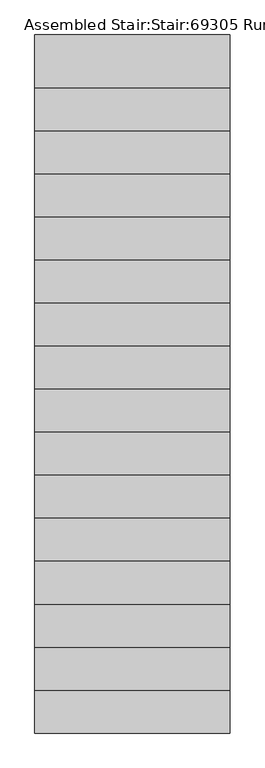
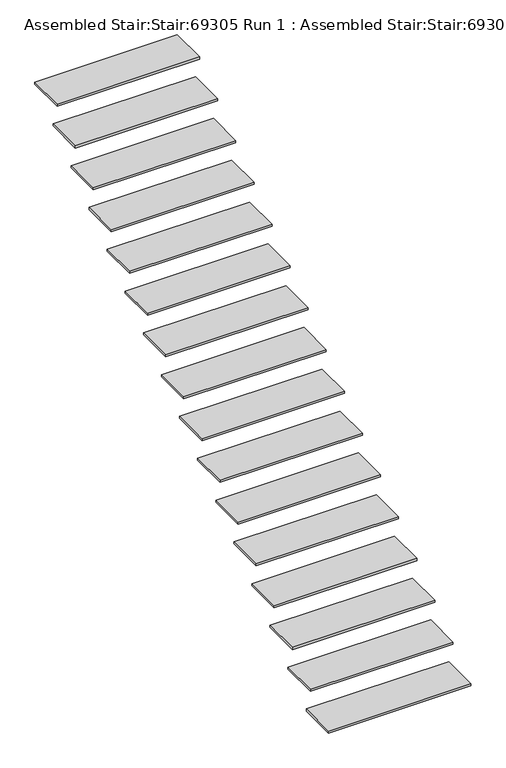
"""IFC4 building model written with IfcOpenShell, lengths in millimetres: stair geometry, Assembled Stair:Stair:69305 Run 1 : Assembled Stair:Stair:69305 Run 1."""

from ifc_helpers import new_model, si_unit, frame, origin, place, context, project, spatial, polyline, outline, extrude, source, transform, mapped, element, save


def assembled_stair_stair_69305_run_1_assembled_stair_stair_07b85a14(model_context):
    return source(origin(), model_context, "Body", "SweptSolid", [
        extrude(outline(polyline([(17274.8089026, -28024.6322236), (17274.8089026, -27754.6322236), (18274.8089026, -27754.6322236), (18274.8089026, -28024.6322236), (17274.8089026, -28024.6322236)])), frame((0.0, 0.0, 2808.5294118), z_axis=(0.0, 0.0, 1.0), x_axis=(1.0, 0.0, 0.0)), (0.0, 0.0, 1.0), 15.0),
        extrude(outline(polyline([(17274.8089026, -28244.6322236), (17274.8089026, -27974.6322236), (18274.8089026, -27974.6322236), (18274.8089026, -28244.6322236), (17274.8089026, -28244.6322236)])), frame((0.0, 0.0, 2632.0588235), z_axis=(0.0, 0.0, 1.0), x_axis=(1.0, 0.0, 0.0)), (0.0, 0.0, 1.0), 15.0),
        extrude(outline(polyline([(17274.8089026, -28464.6322236), (17274.8089026, -28194.6322236), (18274.8089026, -28194.6322236), (18274.8089026, -28464.6322236), (17274.8089026, -28464.6322236)])), frame((0.0, 0.0, 2455.5882353), z_axis=(0.0, 0.0, 1.0), x_axis=(1.0, 0.0, 0.0)), (0.0, 0.0, 1.0), 15.0),
        extrude(outline(polyline([(17274.8089026, -28684.6322236), (17274.8089026, -28414.6322236), (18274.8089026, -28414.6322236), (18274.8089026, -28684.6322236), (17274.8089026, -28684.6322236)])), frame((0.0, 0.0, 2279.1176471), z_axis=(0.0, 0.0, 1.0), x_axis=(1.0, 0.0, 0.0)), (0.0, 0.0, 1.0), 15.0),
        extrude(outline(polyline([(17274.8089026, -28904.6322236), (17274.8089026, -28634.6322236), (18274.8089026, -28634.6322236), (18274.8089026, -28904.6322236), (17274.8089026, -28904.6322236)])), frame((0.0, 0.0, 2102.6470588), z_axis=(0.0, 0.0, 1.0), x_axis=(1.0, 0.0, 0.0)), (0.0, 0.0, 1.0), 15.0),
        extrude(outline(polyline([(17274.8089026, -29124.6322236), (17274.8089026, -28854.6322236), (18274.8089026, -28854.6322236), (18274.8089026, -29124.6322236), (17274.8089026, -29124.6322236)])), frame((0.0, 0.0, 1926.1764706), z_axis=(0.0, 0.0, 1.0), x_axis=(1.0, 0.0, 0.0)), (0.0, 0.0, 1.0), 15.0),
        extrude(outline(polyline([(17274.8089026, -29344.6322236), (17274.8089026, -29074.6322236), (18274.8089026, -29074.6322236), (18274.8089026, -29344.6322236), (17274.8089026, -29344.6322236)])), frame((0.0, 0.0, 1749.7058824), z_axis=(0.0, 0.0, 1.0), x_axis=(1.0, 0.0, 0.0)), (0.0, 0.0, 1.0), 15.0),
        extrude(outline(polyline([(17274.8089026, -29564.6322236), (17274.8089026, -29294.6322236), (18274.8089026, -29294.6322236), (18274.8089026, -29564.6322236), (17274.8089026, -29564.6322236)])), frame((0.0, 0.0, 1573.2352941), z_axis=(0.0, 0.0, 1.0), x_axis=(1.0, 0.0, 0.0)), (0.0, 0.0, 1.0), 15.0),
        extrude(outline(polyline([(17274.8089026, -29784.6322236), (17274.8089026, -29514.6322236), (18274.8089026, -29514.6322236), (18274.8089026, -29784.6322236), (17274.8089026, -29784.6322236)])), frame((0.0, 0.0, 1396.7647059), z_axis=(0.0, 0.0, 1.0), x_axis=(1.0, 0.0, 0.0)), (0.0, 0.0, 1.0), 15.0),
        extrude(outline(polyline([(17274.8089026, -30004.6322236), (17274.8089026, -29734.6322236), (18274.8089026, -29734.6322236), (18274.8089026, -30004.6322236), (17274.8089026, -30004.6322236)])), frame((0.0, 0.0, 1220.2941176), z_axis=(0.0, 0.0, 1.0), x_axis=(1.0, 0.0, 0.0)), (0.0, 0.0, 1.0), 15.0),
        extrude(outline(polyline([(17274.8089026, -30224.6322236), (17274.8089026, -29954.6322236), (18274.8089026, -29954.6322236), (18274.8089026, -30224.6322236), (17274.8089026, -30224.6322236)])), frame((0.0, 0.0, 1043.8235294), z_axis=(0.0, 0.0, 1.0), x_axis=(1.0, 0.0, 0.0)), (0.0, 0.0, 1.0), 15.0),
        extrude(outline(polyline([(17274.8089026, -30444.6322236), (17274.8089026, -30174.6322236), (18274.8089026, -30174.6322236), (18274.8089026, -30444.6322236), (17274.8089026, -30444.6322236)])), frame((0.0, 0.0, 867.3529412), z_axis=(0.0, 0.0, 1.0), x_axis=(1.0, 0.0, 0.0)), (0.0, 0.0, 1.0), 15.0),
        extrude(outline(polyline([(17274.8089026, -30664.6322236), (17274.8089026, -30394.6322236), (18274.8089026, -30394.6322236), (18274.8089026, -30664.6322236), (17274.8089026, -30664.6322236)])), frame((0.0, 0.0, 690.8823529), z_axis=(0.0, 0.0, 1.0), x_axis=(1.0, 0.0, 0.0)), (0.0, 0.0, 1.0), 15.0),
        extrude(outline(polyline([(17274.8089026, -30884.6322236), (17274.8089026, -30614.6322236), (18274.8089026, -30614.6322236), (18274.8089026, -30884.6322236), (17274.8089026, -30884.6322236)])), frame((0.0, 0.0, 514.4117647), z_axis=(0.0, 0.0, 1.0), x_axis=(1.0, 0.0, 0.0)), (0.0, 0.0, 1.0), 15.0),
        extrude(outline(polyline([(17274.8089026, -31104.6322236), (17274.8089026, -30834.6322236), (18274.8089026, -30834.6322236), (18274.8089026, -31104.6322236), (17274.8089026, -31104.6322236)])), frame((0.0, 0.0, 337.9411765), z_axis=(0.0, 0.0, 1.0), x_axis=(1.0, 0.0, 0.0)), (0.0, 0.0, 1.0), 15.0),
        extrude(outline(polyline([(17274.8089026, -31324.6322236), (17274.8089026, -31054.6322236), (18274.8089026, -31054.6322236), (18274.8089026, -31324.6322236), (17274.8089026, -31324.6322236)])), frame((0.0, 0.0, 161.4705882), z_axis=(0.0, 0.0, 1.0), x_axis=(1.0, 0.0, 0.0)), (0.0, 0.0, 1.0), 15.0),
    ])


if __name__ == "__main__":
    model = new_model("IFC4")
    model_context = context("Model", 3, world=origin())
    ifc_project = project(units=[si_unit("LENGTHUNIT", "METRE", prefix="MILLI")], contexts=[model_context])
    site = spatial("IfcSite", under=ifc_project)
    building = spatial("IfcBuilding", under=site)
    placement = place(None, origin())
    assembled_stair_stair_69305_run_1_assembled_stair_stair_shape = assembled_stair_stair_69305_run_1_assembled_stair_stair_07b85a14(model_context)
    element("IfcStair", 1, ObjectType="Assembled Stair:Stair:69305 Run 1 : Assembled Stair:Stair:69305 Run 1", at=placement, inside=building, context=model_context, shape_type="MappedRepresentation", body=[
        mapped(assembled_stair_stair_69305_run_1_assembled_stair_stair_shape, transform((0.0, 0.0, 0.0), x_axis=(1.0, 0.0, 0.0), y_axis=(0.0, 1.0, 0.0), z_axis=(0.0, 0.0, 1.0))),
    ])
    save(model, "model.ifc")
